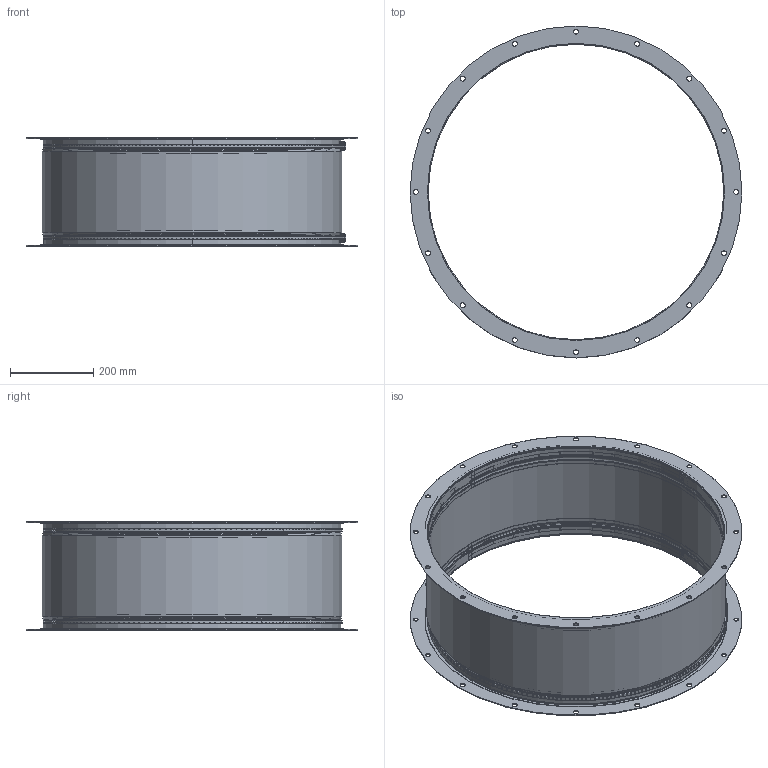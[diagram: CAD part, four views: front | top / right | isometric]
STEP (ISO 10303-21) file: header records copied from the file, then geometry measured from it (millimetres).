
FILE_DESCRIPTION(/* description */ ('Antivibration connector P-DRG ZPD-1100 SE'),/* implementation_level */ '2;1');
FILE_NAME(/* name */ 'Y:\VaultRobocze\Designs\2\0\02\900 4620\2 002 900 4620.stp',/* time_stamp */ '2018-03-30T10:41:53+02:00',/* author */ ('TomaszCie'),/* organization */ (''),/* preprocessor_version */ 'ST-DEVELOPER v16.13',/* originating_system */ 'Autodesk Inventor 2018',/* authorisation */ '');
FILE_SCHEMA (('AUTOMOTIVE_DESIGN { 1 0 10303 214 3 1 1 }'));
Length unit declared in the file: millimetre
Products named in the file (10): 2 002 900 4620; 2 002 901 4620; 2 002 901 3721; 2 002 901 3722 1; Compensator ZPD-1100 400C; Duct clisp SBF; k0043_1430701_03; k0043_1430701_02; k0043_1430701_01; Tape SBF
Assembly tree (12 placements, depth 3):
  2 002 900 4620
    2 002 901 4620  x2
      2 002 901 3721
      2 002 901 3722 1
    Compensator ZPD-1100 400C
    Duct clisp SBF  x2
      k0043_1430701_03
      k0043_1430701_02
      k0043_1430701_01
    Tape SBF  x2
Bounding box: 797 x 797 x 260 mm (x, y, z)
Volume: 967951.7 mm3; surface area: 2173091.5 mm2
Topology: 13 solids, 13 shells, 3992 faces, 10618 edges, 7056 vertices
Faces by surface type: plane 2156, cylinder 1788, bspline 28, torus 16, cone 4
Full cylindrical faces by diameter (mm): 12 x32, 710 x4, 712 x4, 714 x4, 718 x1, 719 x1, 728 x2, 797 x2
Entity records: 68291 total; most frequent: CARTESIAN_POINT 18342, ORIENTED_EDGE 10558, DIRECTION 9923, EDGE_CURVE 5279, VERTEX_POINT 3519, AXIS2_PLACEMENT_3D 3444, LINE 3035, VECTOR 3035
